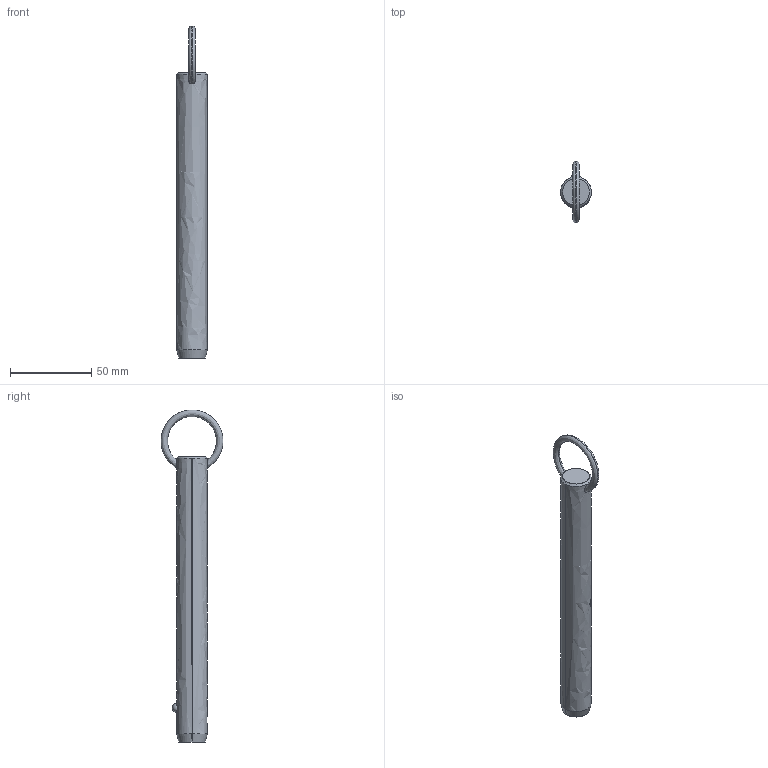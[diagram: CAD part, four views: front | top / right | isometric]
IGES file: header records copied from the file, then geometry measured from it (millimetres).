
Start section: SolidWorks IGES file using analytic representation for surfaces
Global section: file name: C:\Users\liam_\OneDrive\Documents\WORK\Work for WixRoyd\Job Files\J-00019 - Matt Davis CAD Checking\04. CAD Drawings\automotion20190605\P1250.2_v2\P1250.2_v2_20190729_IGES\P1250.075-560.igs; native system: SolidWorks 2017; preprocessor: SolidWorks 2017; author: liam_; date: 190729.235751; units: millimetre
Bounding box: 19 x 38.09 x 204 mm (x, y, z)
Surface area: 12002.5 mm2 (no closed solid volume)
Topology: 0 solids, 0 shells, 12 faces, 294 edges, 292 vertices
Faces by surface type: revolution 8, bspline 4
